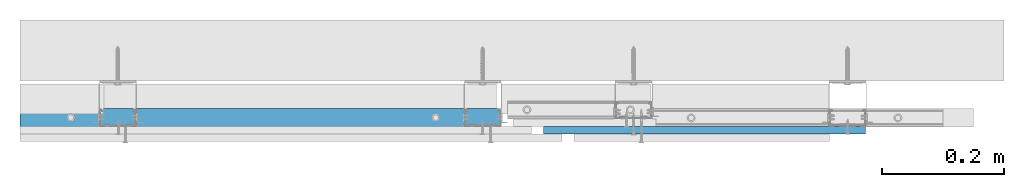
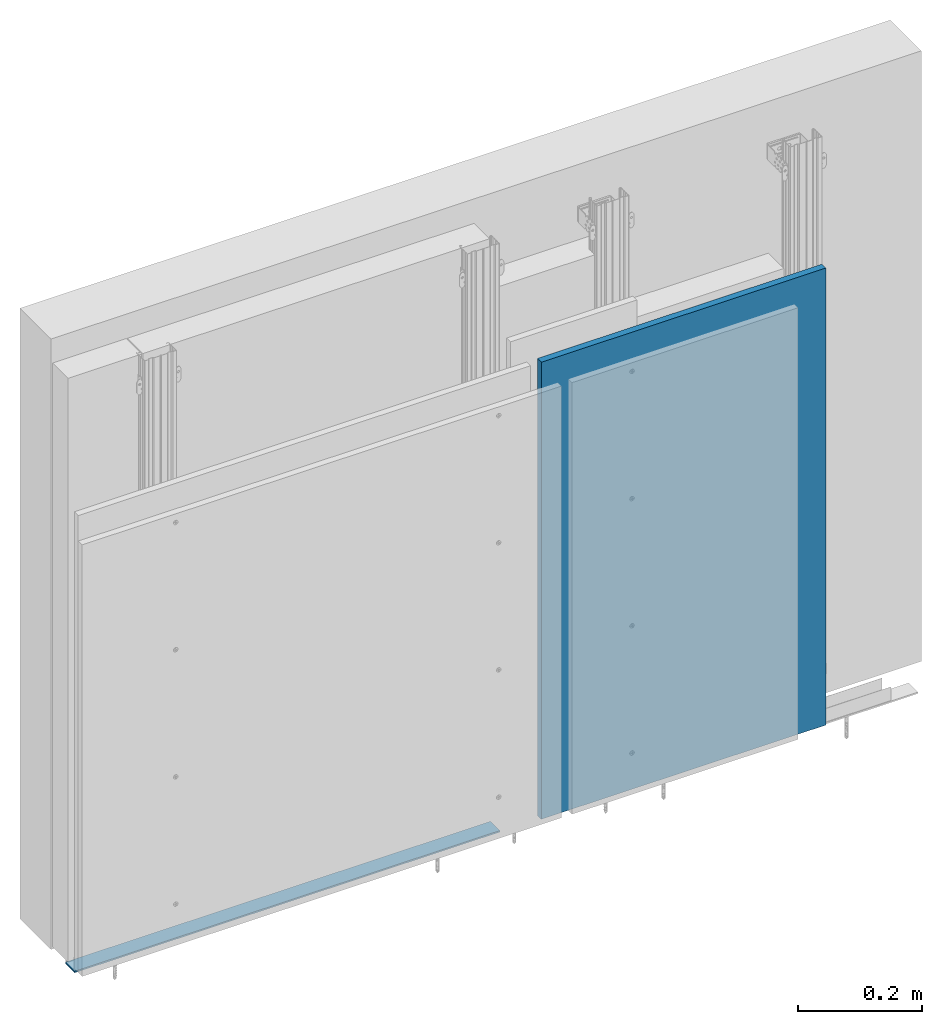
# One storey, part 3 of 48: 2 walls.
"""IFC2X3 building model written with IfcOpenShell, lengths in millimetres."""

from ifc_helpers import new_model, entity, si_unit, converted_unit, direction, frame, origin, origin_with_axes, place, context, project, spatial, faceted_brep, element, save


model = new_model("IFC2X3")

# Units and contexts
model_context = context("Model", 3, precision=1e-05, world=origin(), true_north=direction((0.0, 1.0, 0.0)))
ifc_project = project(units=[si_unit("LENGTHUNIT", "METRE", prefix="MILLI"), si_unit("AREAUNIT", "SQUARE_METRE"), si_unit("VOLUMEUNIT", "CUBIC_METRE"), converted_unit("PLANEANGLEUNIT", "DEGREE", entity("IfcPlaneAngleMeasure", 0.01745), si_unit("PLANEANGLEUNIT", "RADIAN"), dimensions=[0, 0, 0, 0, 0, 0, 0]), si_unit("SOLIDANGLEUNIT", "STERADIAN"), si_unit("MASSUNIT", "GRAM"), si_unit("TIMEUNIT", "SECOND"), si_unit("THERMODYNAMICTEMPERATUREUNIT", "DEGREE_CELSIUS"), si_unit("LUMINOUSINTENSITYUNIT", "LUMEN")], contexts=[model_context])

# Site, building, storey
site_placement = place(None, origin_with_axes())
site = spatial("IfcSite", under=ifc_project, at=site_placement, Name="Default Site", CompositionType="ELEMENT")
building_placement = place(site_placement, origin_with_axes())
building = spatial("IfcBuilding", under=site, at=building_placement, Name="Default Building", CompositionType="ELEMENT")
storey_placement = place(building_placement, origin_with_axes())
storey = spatial("IfcBuildingStorey", under=building, at=storey_placement, Name="Default Building Storey", CompositionType="ELEMENT", Elevation=0.0)

# Walls
wall_1_placement = place(storey_placement, frame((1825.000000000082, 1992.890922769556, 2.384025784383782), z_axis=(0.0, 0.0, 1.0), x_axis=(1.0, 0.0, 0.0)))
element("IfcWall", 1, at=wall_1_placement, inside=storey, Name="Taśma uszczelniająca piankowa RIGIPS", context=model_context, shape_type="Brep", body=[
    faceted_brep([(300.0251334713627, -46.50000002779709, 2.998418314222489), (1090.890559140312, -46.50000002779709, 2.998418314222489), (1090.890559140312, -16.52486655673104, 3.001783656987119), (300.0251334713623, -16.52486655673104, 3.001783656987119), (300.0251334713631, -46.50000002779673, -2.309905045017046e-12), (1090.890559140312, -46.50000002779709, -2.309905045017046e-12), (300.0251334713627, -16.52486655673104, 0.001783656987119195), (1090.890559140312, -16.52486655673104, 0.001783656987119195)], [[[0, 1, 2, 3]], [[1, 0, 4, 5]], [[5, 4, 6, 7]], [[3, 6, 4, 0]], [[7, 6, 3, 2]], [[2, 1, 5, 7]]]),
])
wall_2_placement = place(storey_placement, frame((3763.22901386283, 1947.166056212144, 1059.999999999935), z_axis=(0.0, 0.0, 1.0), x_axis=(-1.0, 6.389333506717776e-13, 0.0)))
element("IfcWall", 2, at=wall_2_placement, inside=storey, Name="Płyta gipsowo-kartonowa RIGIPS PRO (4PRO™)", context=model_context, shape_type="Brep", body=[
    faceted_brep([(248.0679714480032, -4.049923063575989e-10, -151.6096039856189), (248.067971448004, 12.49999999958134, -151.6096039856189), (248.067971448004, 12.49999999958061, -1050.001581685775), (248.0679714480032, -4.057142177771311e-10, -1050.001581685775), (777.2895112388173, 12.49999999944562, -151.6096039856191), (777.2895112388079, -5.26634380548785e-10, -151.6096039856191), (777.289511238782, -5.24107690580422e-10, -1050.001581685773), (777.2895112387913, 12.49999999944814, -1050.001581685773)], [[[0, 1, 2, 3]], [[4, 5, 6, 7]], [[4, 1, 0, 5]], [[7, 2, 1, 4]], [[0, 3, 6, 5]], [[6, 3, 2, 7]]]),
])

save(model, "model.ifc")
